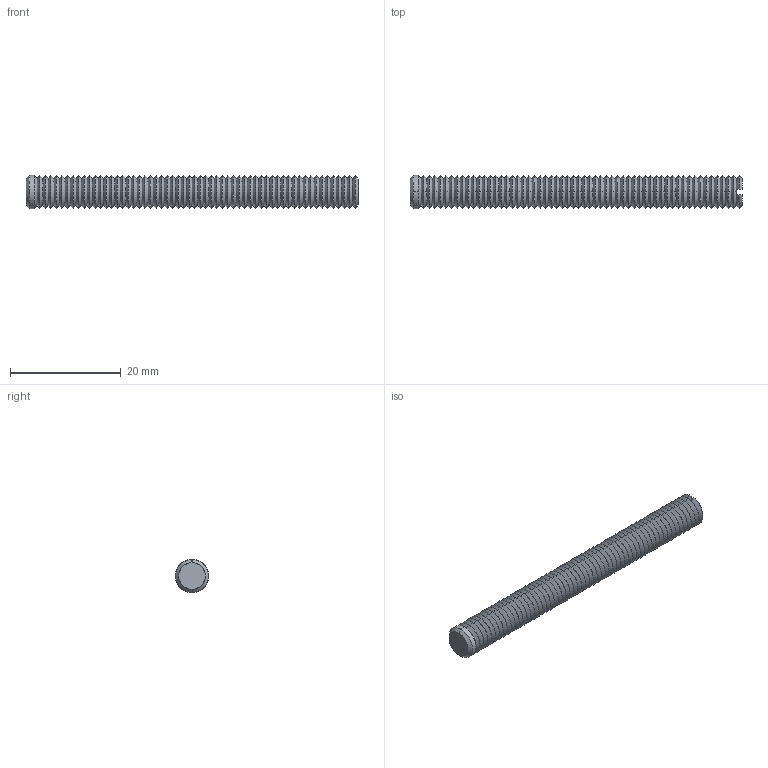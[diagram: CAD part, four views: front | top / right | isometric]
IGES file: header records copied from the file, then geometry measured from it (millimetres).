
Start section: SolidWorks IGES file using analytic representation for surfaces
Global section: file name: C:\Documents and Settings\IANO\Desktop\Temp File\Process pending\EXISTING\34300_v2\34300_v2_20170622_IGES\34300.W0068.igs; native system: SolidWorks 2009; preprocessor: SolidWorks 2009; author: IANO; date: 170622.093713; units: millimetre
Bounding box: 60 x 6 x 6 mm (x, y, z)
Surface area: 1655.2 mm2 (no closed solid volume)
Topology: 0 solids, 0 shells, 244 faces, 1040 edges, 1040 vertices
Faces by surface type: revolution 238, bspline 6
